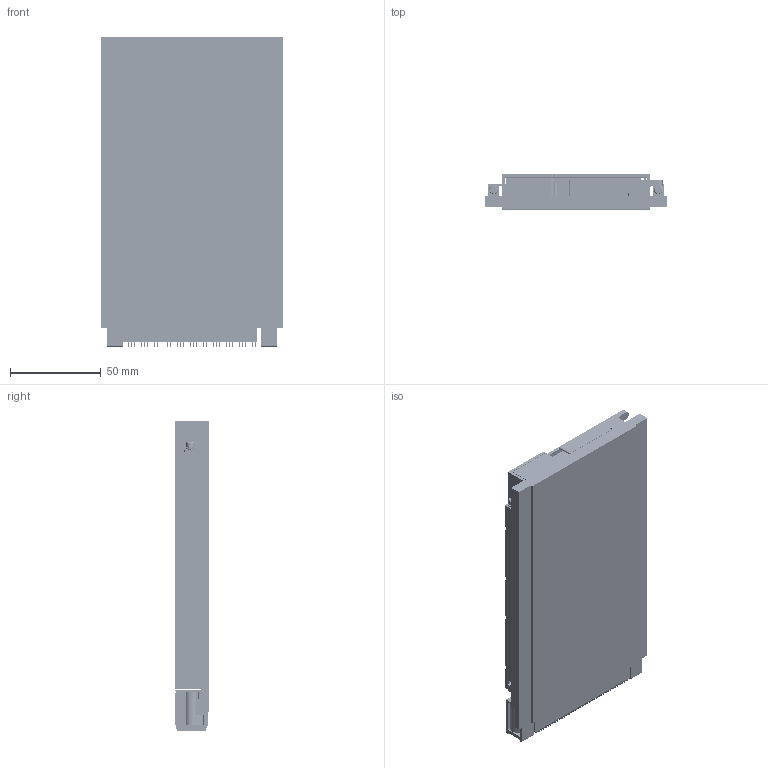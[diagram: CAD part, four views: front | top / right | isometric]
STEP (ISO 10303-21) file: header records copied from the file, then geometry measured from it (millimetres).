
FILE_DESCRIPTION (( 'STEP AP203' ), '1' );
FILE_NAME ('3U-VPX48.2-PS-260-82880.step', '2018-06-15T20:52:24', ( '' ), ( '' ), 'SwSTEP 2.0', 'SolidWorks 2014', '' );
FILE_SCHEMA (( 'CONFIG_CONTROL_DESIGN' ));
Products named in the file (1): 3U-VPX48.2-PS-260-82880
Bounding box: 100 x 19.27 x 170.75 mm (x, y, z)
Volume: 169006.8 mm3; surface area: 209231.4 mm2
Topology: 300 solids, 300 shells, 21685 faces, 60909 edges, 39472 vertices
Faces by surface type: plane 17819, cylinder 2683, bspline 1004, cone 178, torus 1
Entity records: 741177 total; most frequent: CARTESIAN_POINT 191068, ORIENTED_EDGE 118102, DIRECTION 104856, EDGE_CURVE 59051, LINE 51044, VECTOR 51044, VERTEX_POINT 39472, AXIS2_PLACEMENT_3D 26906
